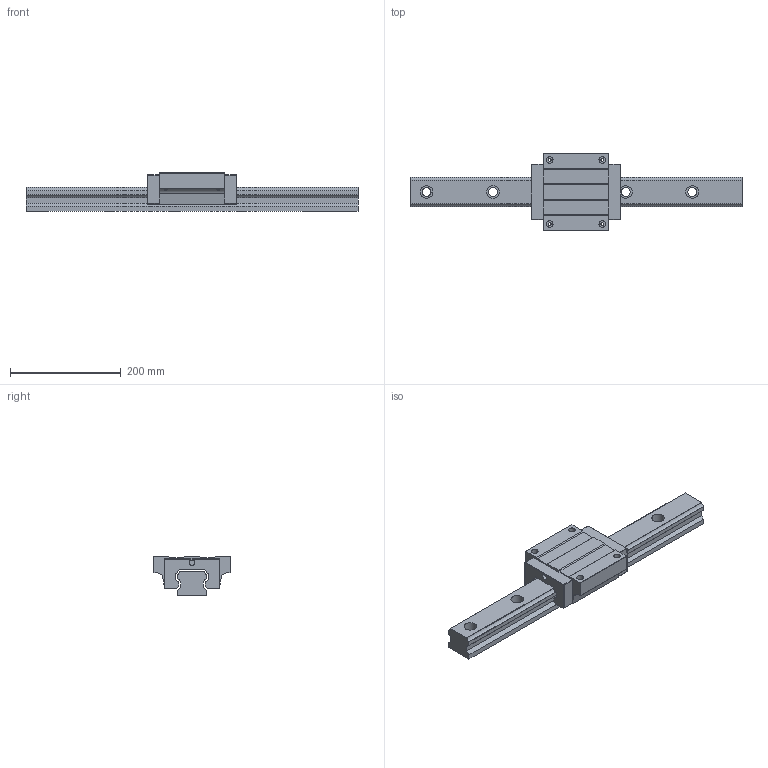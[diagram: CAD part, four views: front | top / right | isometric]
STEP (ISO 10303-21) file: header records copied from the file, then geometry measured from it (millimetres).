
FILE_DESCRIPTION(/* description */ (''),/* implementation_level */ '2;1');
FILE_NAME(/* name */ 'TRH55FL-XN.stp',/* time_stamp */ '2017-10-25T13:12:11+08:00',/* author */ (''),/* organization */ (''),/* preprocessor_version */ 'ST-DEVELOPER v11',/* originating_system */ 'SIEMENS UGS NX 6.0',/* authorisation */ '');
FILE_SCHEMA (('AUTOMOTIVE_DESIGN { 1 0 10303 214 1 1 1 1 }'));
Length unit declared in the file: millimetre
Products named in the file (1): TRH55FL-XN
Bounding box: 600 x 140 x 70 mm (x, y, z)
Volume: 1919084.1 mm3; surface area: 220288.6 mm2
Topology: 2 solids, 2 shells, 135 faces, 336 edges, 211 vertices
Faces by surface type: plane 80, cylinder 51, sphere 4
Full cylindrical faces by diameter (mm): 5 x4, 9.728 x1, 12 x4, 16 x5, 23 x5
Entity records: 4109 total; most frequent: CARTESIAN_POINT 890, DIRECTION 672, ORIENTED_EDGE 616, EDGE_CURVE 308, AXIS2_PLACEMENT_3D 234, VERTEX_POINT 206, LINE 204, VECTOR 204
